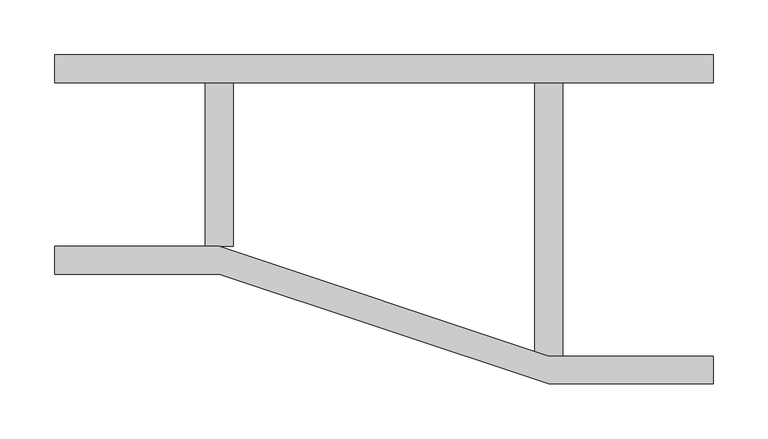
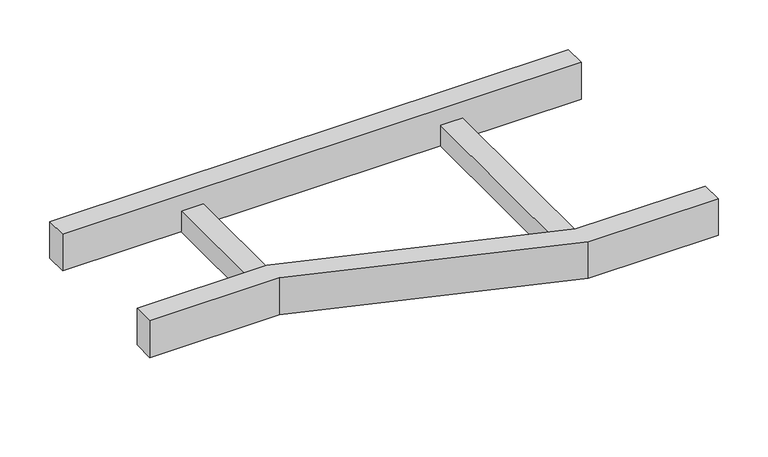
"""IFC4 building model written with IfcOpenShell, lengths in millimetres: cable carrier fitting geometry, BAKS_LD_RED_Straight reducer_RD : RD(S/L/P)C_H45."""

from ifc_helpers import new_model, si_unit, frame, origin, place, context, project, spatial, polyline, outline, extrude, source, transform, mapped, element, save


def cable_carrier_fitting_41da71e9(model_context):
    return source(origin(), model_context, "Body", "SweptSolid", [
        extrude(outline(polyline([(0.0, -100.0), (0.0, -74.6), (150.0, -74.6), (450.0, -174.6), (600.0, -174.6), (600.0, -200.0), (450.0, -200.0), (150.0, -100.0), (0.0, -100.0)])), frame((0.0, 0.0, -22.5), z_axis=(0.0, 0.0, 1.0), x_axis=(1.0, 0.0, 0.0)), (0.0, 0.0, 1.0), 45.0),
        extrude(outline(polyline([(0.0, 74.6), (0.0, 100.0), (600.0, 100.0), (600.0, 74.6), (0.0, 74.6)])), frame((0.0, 0.0, -22.5), z_axis=(0.0, 0.0, 1.0), x_axis=(1.0, 0.0, 0.0)), (0.0, 0.0, 1.0), 45.0),
        extrude(outline(polyline([(437.3, 74.6), (462.7, 74.6), (462.7, -174.6), (437.3, -174.6), (437.3, 74.6)])), frame((0.0, 0.0, -22.5), z_axis=(0.0, 0.0, 1.0), x_axis=(1.0, 0.0, 0.0)), (0.0, 0.0, 1.0), 25.4),
        extrude(outline(polyline([(137.3, 74.6), (162.7, 74.6), (162.7, -74.6), (137.3, -74.6), (137.3, 74.6)])), frame((0.0, 0.0, -22.5), z_axis=(0.0, 0.0, 1.0), x_axis=(1.0, 0.0, 0.0)), (0.0, 0.0, 1.0), 25.4),
    ])


if __name__ == "__main__":
    model = new_model("IFC4")
    model_context = context("Model", 3, world=origin())
    ifc_project = project(units=[si_unit("LENGTHUNIT", "METRE", prefix="MILLI")], contexts=[model_context])
    site = spatial("IfcSite", under=ifc_project)
    building = spatial("IfcBuilding", under=site)
    placement = place(None, origin())
    cable_carrier_fitting_shape = cable_carrier_fitting_41da71e9(model_context)
    element("IfcCableCarrierFitting", 1, ObjectType="BAKS_LD_RED_Straight reducer_RD : RD(S/L/P)C_H45", at=placement, inside=building, context=model_context, shape_type="MappedRepresentation", body=[
        mapped(cable_carrier_fitting_shape, transform((0.0, 0.0, 0.0), x_axis=(1.0, 0.0, 0.0), y_axis=(0.0, 1.0, 0.0), z_axis=(0.0, 0.0, 1.0))),
    ])
    save(model, "model.ifc")
